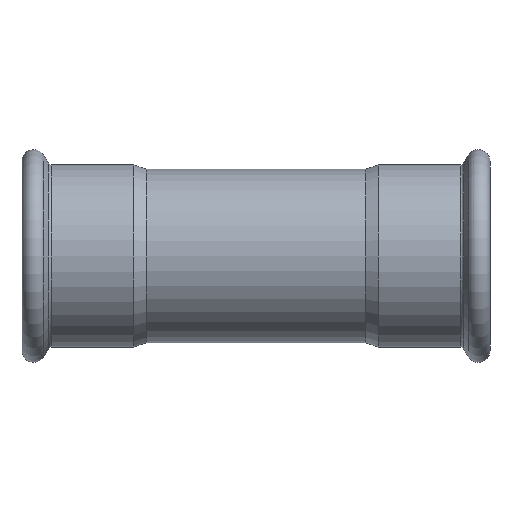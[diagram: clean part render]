
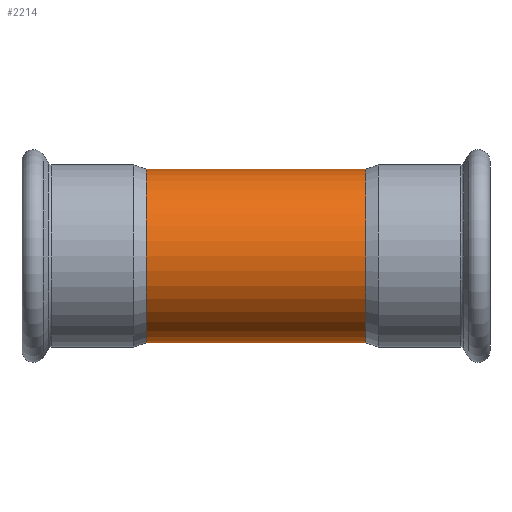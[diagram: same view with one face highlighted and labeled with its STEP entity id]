
A CAD part, front view. The second image highlights one B-rep face of the part: STEP entity #2214.
In plain terms, the highlighted cylindrical face has radius 44.45 mm (diameter 88.9 mm), a full revolution.
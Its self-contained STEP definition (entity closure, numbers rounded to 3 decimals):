
#2001=CARTESIAN_POINT('',(0.,34.723,27.751));
#2002=VERTEX_POINT('',#2001);
#2087=CARTESIAN_POINT('',(0.,34.723,27.751));
#2088=CARTESIAN_POINT('',(0.835,34.723,27.751));
#2089=CARTESIAN_POINT('',(1.948,34.76,27.705));
#2090=CARTESIAN_POINT('',(4.159,34.929,27.491));
#2091=CARTESIAN_POINT('',(6.612,35.251,27.082));
#2092=CARTESIAN_POINT('',(9.243,35.81,26.34));
#2093=CARTESIAN_POINT('',(11.252,36.345,25.593));
#2094=CARTESIAN_POINT('',(14.189,37.228,24.317));
#2095=CARTESIAN_POINT('',(16.907,38.274,22.667));
#2096=CARTESIAN_POINT('',(19.326,39.337,20.709));
#2097=CARTESIAN_POINT('',(20.664,39.953,19.502));
#2098=CARTESIAN_POINT('',(21.743,40.476,18.386));
#2099=CARTESIAN_POINT('',(23.098,41.156,16.821));
#2100=CARTESIAN_POINT('',(24.503,41.891,14.948));
#2101=CARTESIAN_POINT('',(26.609,43.047,11.371));
#2102=CARTESIAN_POINT('',(27.924,43.813,7.877));
#2103=CARTESIAN_POINT('',(28.806,44.333,3.729));
#2104=CARTESIAN_POINT('',(29.025,44.465,1.329));
#2105=CARTESIAN_POINT('',(28.984,44.44,-1.335));
#2106=CARTESIAN_POINT('',(28.863,44.368,-2.931));
#2107=CARTESIAN_POINT('',(28.584,44.203,-4.77));
#2108=CARTESIAN_POINT('',(28.215,43.985,-6.502));
#2109=CARTESIAN_POINT('',(27.483,43.557,-9.049));
#2110=CARTESIAN_POINT('',(26.4,42.936,-11.629));
#2111=CARTESIAN_POINT('',(24.917,42.117,-14.268));
#2112=CARTESIAN_POINT('',(23.605,41.418,-16.18));
#2113=CARTESIAN_POINT('',(22.143,40.672,-17.959));
#2114=CARTESIAN_POINT('',(20.882,40.058,-19.282));
#2115=CARTESIAN_POINT('',(19.028,39.194,-21.005));
#2116=CARTESIAN_POINT('',(17.001,38.321,-22.554));
#2117=CARTESIAN_POINT('',(14.606,37.419,-24.003));
#2118=CARTESIAN_POINT('',(12.106,36.573,-25.282));
#2119=CARTESIAN_POINT('',(9.422,35.833,-26.31));
#2120=CARTESIAN_POINT('',(6.612,35.275,-27.048));
#2121=CARTESIAN_POINT('',(3.719,34.856,-27.586));
#2122=CARTESIAN_POINT('',(0.009,34.634,-27.861));
#2123=CARTESIAN_POINT('',(-3.951,34.87,-27.569));
#2124=CARTESIAN_POINT('',(-8.272,35.535,-26.714));
#2125=CARTESIAN_POINT('',(-11.472,36.374,-25.573));
#2126=CARTESIAN_POINT('',(-13.99,37.209,-24.321));
#2127=CARTESIAN_POINT('',(-15.623,37.793,-23.411));
#2128=CARTESIAN_POINT('',(-17.572,38.564,-22.132));
#2129=CARTESIAN_POINT('',(-19.558,39.436,-20.536));
#2130=CARTESIAN_POINT('',(-21.227,40.222,-18.944));
#2131=CARTESIAN_POINT('',(-23.069,41.135,-16.911));
#2132=CARTESIAN_POINT('',(-24.694,41.995,-14.664));
#2133=CARTESIAN_POINT('',(-26.06,42.748,-12.233));
#2134=CARTESIAN_POINT('',(-27.236,43.412,-9.708));
#2135=CARTESIAN_POINT('',(-28.347,44.06,-6.35));
#2136=CARTESIAN_POINT('',(-29.028,44.467,-2.138));
#2137=CARTESIAN_POINT('',(-29.028,44.467,1.428));
#2138=CARTESIAN_POINT('',(-28.686,44.263,4.25));
#2139=CARTESIAN_POINT('',(-28.124,43.931,7.022));
#2140=CARTESIAN_POINT('',(-27.234,43.411,9.715));
#2141=CARTESIAN_POINT('',(-26.05,42.742,12.253));
#2142=CARTESIAN_POINT('',(-24.692,41.994,14.666));
#2143=CARTESIAN_POINT('',(-22.859,41.024,17.203));
#2144=CARTESIAN_POINT('',(-20.839,40.033,19.346));
#2145=CARTESIAN_POINT('',(-19.298,39.324,20.733));
#2146=CARTESIAN_POINT('',(-18.092,38.795,21.706));
#2147=CARTESIAN_POINT('',(-16.829,38.27,22.618));
#2148=CARTESIAN_POINT('',(-15.068,37.583,23.75));
#2149=CARTESIAN_POINT('',(-12.733,36.768,24.996));
#2150=CARTESIAN_POINT('',(-9.758,35.919,26.195));
#2151=CARTESIAN_POINT('',(-6.613,35.251,27.082));
#2152=CARTESIAN_POINT('',(-3.341,34.822,27.628));
#2153=CARTESIAN_POINT('',(-1.113,34.723,27.751));
#2154=CARTESIAN_POINT('',(0.,34.723,27.751));
#2155=CARTESIAN_POINT('',(0.,34.723,27.751));
#2156=CARTESIAN_POINT('',(0.,34.723,27.751));
#2157=CARTESIAN_POINT('',(0.,34.723,27.751));
#2158=B_SPLINE_CURVE_WITH_KNOTS('',3,(#2087,#2088,#2089,#2090,#2091,#2092,#2093,#2094,#2095,#2096,#2097,#2098,#2099,#2100,#2101,#2102,#2103,#2104,#2105,#2106,#2107,#2108,#2109,#2110,#2111,#2112,#2113,#2114,#2115,#2116,#2117,#2118,#2119,#2120,#2121,#2122,#2123,#2124,#2125,#2126,#2127,#2128,#2129,#2130,#2131,#2132,#2133,#2134,#2135,#2136,#2137,#2138,#2139,#2140,#2141,#2142,#2143,#2144,#2145,#2146,#2147,#2148,#2149,#2150,#2151,#2152,#2153,#2154,#2155,#2156,#2157),.UNSPECIFIED.,.T.,.U.,(4,1,1,1,1,1,1,1,1,1,1,1,1,1,1,1,1,1,1,1,1,1,1,1,1,1,1,1,1,1,1,1,1,1,1,1,1,1,1,1,1,1,1,1,1,1,1,1,1,1,1,1,1,1,1,1,1,1,1,1,1,1,1,1,1,3,4),(-16.804,-16.579,-16.504,-16.204,-15.904,-15.754,-15.604,-15.004,-14.854,-14.704,-14.478,-14.403,-14.103,-13.803,-13.203,-13.053,-12.603,-12.528,-12.303,-12.153,-12.003,-11.803,-11.403,-11.203,-10.936,-10.736,-10.536,-10.403,-10.002,-9.802,-9.602,-9.202,-9.002,-8.802,-8.402,-8.002,-7.735,-7.202,-7.068,-6.935,-6.668,-6.402,-6.201,-6.001,-5.601,-5.401,-5.201,-4.801,-4.401,-4.001,-3.801,-3.601,-3.201,-3.001,-2.801,-2.401,-2.101,-1.95,-1.8,-1.65,-1.5,-1.2,-0.9,-0.6,-0.3,0.0,0.),.UNSPECIFIED.);
#2159=EDGE_CURVE('',#2002,#2002,#2158,.T.);
#2184=CARTESIAN_POINT('',(0.,0.,0.0));
#2185=DIRECTION('',(1.0,0.,0.0));
#2186=DIRECTION('',(0.0,1.0,0.0));
#2187=AXIS2_PLACEMENT_3D('',#2184,#2185,#2186);
#2188=CYLINDRICAL_SURFACE('',#2187,44.45);
#2189=CARTESIAN_POINT('',(-56.328,44.45,0.0));
#2190=VERTEX_POINT('',#2189);
#2191=CARTESIAN_POINT('',(-56.328,0.,0.0));
#2192=DIRECTION('',(1.0,0.0,0.0));
#2193=DIRECTION('',(0.0,1.0,0.0));
#2194=AXIS2_PLACEMENT_3D('',#2191,#2192,#2193);
#2195=CIRCLE('',#2194,44.45);
#2196=EDGE_CURVE('',#2190,#2190,#2195,.T.);
#2197=ORIENTED_EDGE('',*,*,#2196,.T.);
#2198=EDGE_LOOP('',(#2197));
#2199=FACE_OUTER_BOUND('',#2198,.T.);
#2200=CARTESIAN_POINT('',(56.328,44.45,0.0));
#2201=VERTEX_POINT('',#2200);
#2202=CARTESIAN_POINT('',(56.328,0.,0.0));
#2203=DIRECTION('',(1.0,0.0,0.0));
#2204=DIRECTION('',(0.0,1.0,0.0));
#2205=AXIS2_PLACEMENT_3D('',#2202,#2203,#2204);
#2206=CIRCLE('',#2205,44.45);
#2207=EDGE_CURVE('',#2201,#2201,#2206,.T.);
#2208=ORIENTED_EDGE('',*,*,#2207,.F.);
#2209=EDGE_LOOP('',(#2208));
#2210=FACE_BOUND('',#2209,.T.);
#2211=ORIENTED_EDGE('',*,*,#2159,.F.);
#2212=EDGE_LOOP('',(#2211));
#2213=FACE_BOUND('',#2212,.T.);
#2214=ADVANCED_FACE('',(#2199,#2210,#2213),#2188,.T.);
